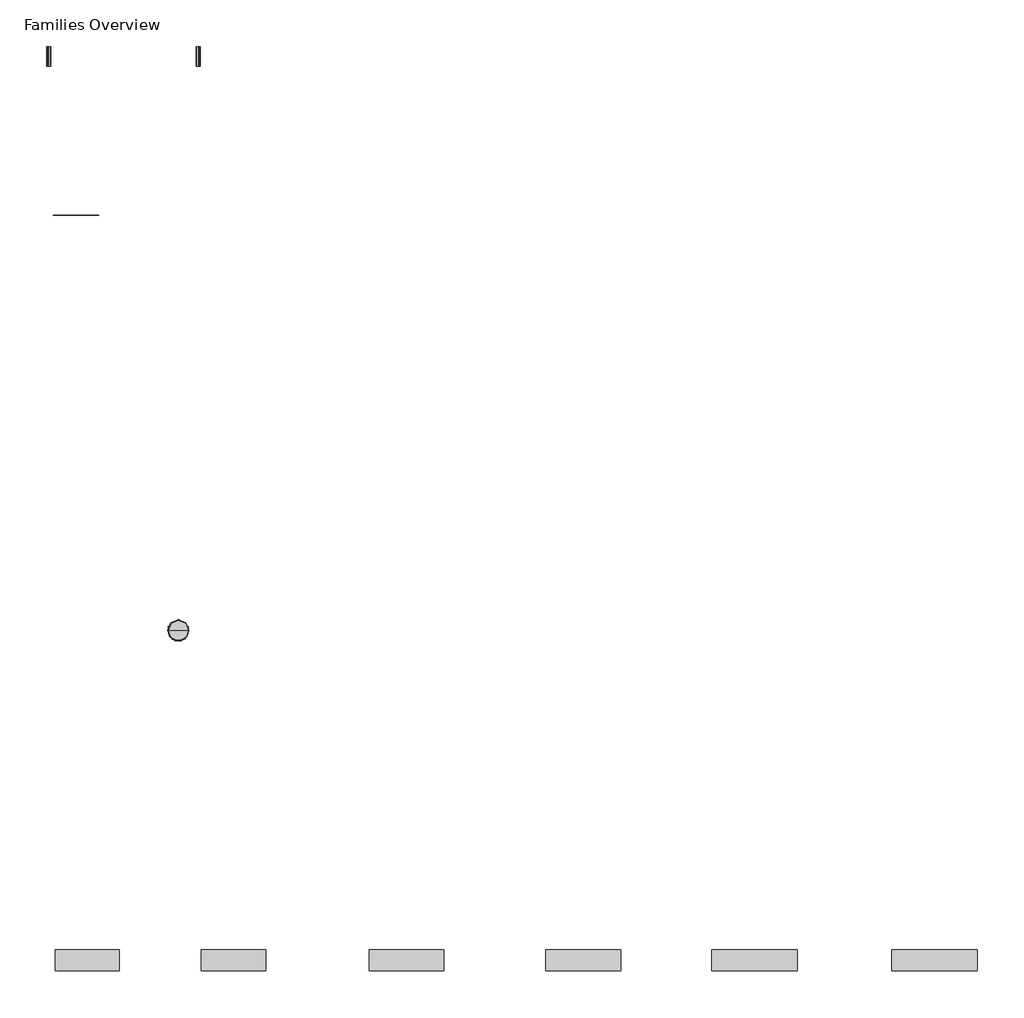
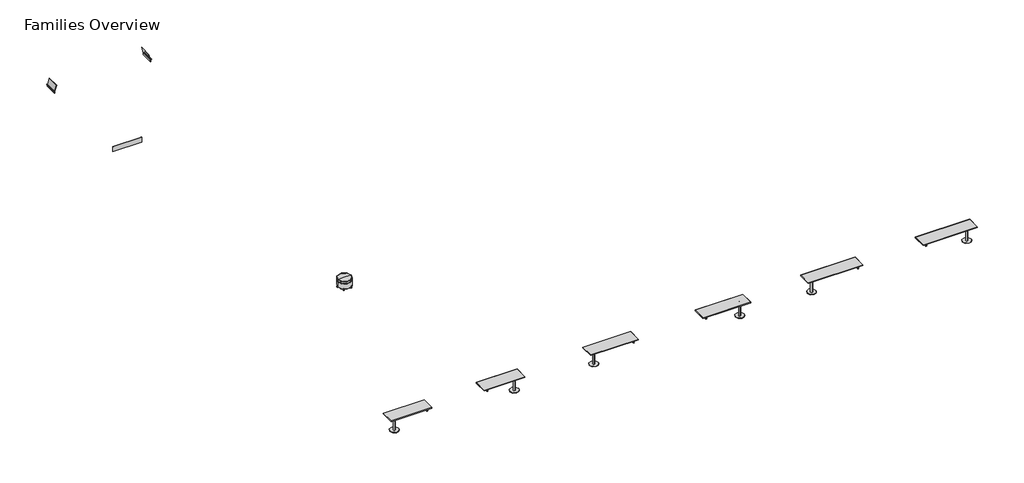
# One storey, incomplete: 10 furniture elements.
"""IFC4 building model written with IfcOpenShell, lengths in millimetres."""

from ifc_helpers import new_model, si_unit, origin, place, context, project, spatial, transform, mapped, element, save
from components import furniture_5c7a1199, furniture_7b93e401, furniture_b3126ded, furniture_3ccd9896, furniture_8df6c61d, furniture_59a98a84, steelcase_coalesse_topo_modesty_screen_lower_51in_x_10in_e8a221f6, steelcase_coalesse_topo_modesty_screen_upper_left_3f92186f, steelcase_coalesse_topo_modesty_screen_upper_right_8f536726, steelcase_coalesse_topo_seating_mobile_lounge_lounge_jr_6746f59b

model = new_model("IFC4")

# Units and contexts
model_context = context("Model", 3, world=origin())
ifc_project = project(units=[si_unit("LENGTHUNIT", "METRE", prefix="MILLI")], contexts=[model_context])

# Site, building, storey
site = spatial("IfcSite", under=ifc_project)
building = spatial("IfcBuilding", under=site)
storey = spatial("IfcBuildingStorey", under=building, Name="Families Overview", Elevation=0.0)

# Furniture
placement = place(None, origin())
furniture_shape = furniture_5c7a1199(model_context)
element("IfcFurniture", 1, ObjectType="Steelcase Coalesse - Topo - Desktop - Freestanding Straight Ancillary : 72W x 24D - Left - Flat Edge", at=placement, inside=storey, context=model_context, shape_type="MappedRepresentation", body=[
    mapped(furniture_shape, transform((29328.4977217, 17704.7262917, 0.0), x_axis=(1.0, 0.0, 0.0), y_axis=(0.0, 1.0, 0.0), z_axis=(0.0, 0.0, 1.0))),
])
furniture_2_shape = furniture_7b93e401(model_context)
element("IfcFurniture", 2, ObjectType="Steelcase Coalesse - Topo - Desktop - Freestanding Straight Ancillary : 72W x 24D - Right - Flat Edge", at=placement, inside=storey, context=model_context, shape_type="MappedRepresentation", body=[
    mapped(furniture_2_shape, transform((33494.0977217, 17704.7262917, 0.0), x_axis=(1.0, 0.0, 0.0), y_axis=(0.0, 1.0, 0.0), z_axis=(0.0, 0.0, 1.0))),
])
furniture_3_shape = furniture_b3126ded(model_context)
element("IfcFurniture", 3, ObjectType="Steelcase Coalesse - Topo - Desktop - Freestanding Straight Ancillary : 84W x 24D - Left - Flat Edge", at=placement, inside=storey, context=model_context, shape_type="MappedRepresentation", body=[
    mapped(furniture_3_shape, transform((38269.2977217, 17704.7262917, 0.0), x_axis=(1.0, 0.0, 0.0), y_axis=(0.0, 1.0, 0.0), z_axis=(0.0, 0.0, 1.0))),
])
furniture_4_shape = furniture_3ccd9896(model_context)
element("IfcFurniture", 4, ObjectType="Steelcase Coalesse - Topo - Desktop - Freestanding Straight Ancillary : 84W x 24D - Right - Flat Edge", at=placement, inside=storey, context=model_context, shape_type="MappedRepresentation", body=[
    mapped(furniture_4_shape, transform((43298.4977217, 17704.7262917, 0.0), x_axis=(1.0, 0.0, 0.0), y_axis=(0.0, 1.0, 0.0), z_axis=(0.0, 0.0, 1.0))),
])
furniture_5_shape = furniture_8df6c61d(model_context)
element("IfcFurniture", 5, ObjectType="Steelcase Coalesse - Topo - Desktop - Freestanding Straight Ancillary : 96W x 24D - Left - Flat Edge", at=placement, inside=storey, context=model_context, shape_type="MappedRepresentation", body=[
    mapped(furniture_5_shape, transform((48022.8977217, 17704.7262917, 0.0), x_axis=(1.0, 0.0, 0.0), y_axis=(0.0, 1.0, 0.0), z_axis=(0.0, 0.0, 1.0))),
])
furniture_6_shape = furniture_59a98a84(model_context)
element("IfcFurniture", 6, ObjectType="Steelcase Coalesse - Topo - Desktop - Freestanding Straight Ancillary : 96W x 24D - Right - Flat Edge", at=placement, inside=storey, context=model_context, shape_type="MappedRepresentation", body=[
    mapped(furniture_6_shape, transform((53153.6977217, 17704.7262917, 0.0), x_axis=(1.0, 0.0, 0.0), y_axis=(0.0, 1.0, 0.0), z_axis=(0.0, 0.0, 1.0))),
])
steelcase_coalesse_topo_modesty_screen_lower_51in_x_10in_shape = steelcase_coalesse_topo_modesty_screen_lower_51in_x_10in_e8a221f6(model_context)
element("IfcFurniture", 7, ObjectType="Steelcase Coalesse - Topo - Modesty Screen - Lower : 51in x 10in", at=placement, inside=storey, context=model_context, shape_type="MappedRepresentation", body=[
    mapped(steelcase_coalesse_topo_modesty_screen_lower_51in_x_10in_shape, transform((29037.9057563, 38837.201004, 0.0), x_axis=(1.0, 0.0, 0.0), y_axis=(0.0, 1.0, 0.0), z_axis=(0.0, 0.0, 1.0))),
])
steelcase_coalesse_topo_modesty_screen_upper_left_shape = steelcase_coalesse_topo_modesty_screen_upper_left_3f92186f(model_context)
element("IfcFurniture", 8, ObjectType="Steelcase Coalesse - Topo - Modesty Screen - Upper : Left", at=placement, inside=storey, context=model_context, shape_type="MappedRepresentation", body=[
    mapped(steelcase_coalesse_topo_modesty_screen_upper_left_shape, transform((29119.2104101, 43414.975167, 0.0), x_axis=(1.0, 0.0, 0.0), y_axis=(0.0, 1.0, 0.0), z_axis=(0.0, 0.0, 1.0))),
])
steelcase_coalesse_topo_modesty_screen_upper_right_shape = steelcase_coalesse_topo_modesty_screen_upper_right_8f536726(model_context)
element("IfcFurniture", 9, ObjectType="Steelcase Coalesse - Topo - Modesty Screen - Upper : Right", at=placement, inside=storey, context=model_context, shape_type="MappedRepresentation", body=[
    mapped(steelcase_coalesse_topo_modesty_screen_upper_right_shape, transform((33437.2104101, 43414.975167, 0.0), x_axis=(1.0, 0.0, 0.0), y_axis=(0.0, 1.0, 0.0), z_axis=(0.0, 0.0, 1.0))),
])
steelcase_coalesse_topo_seating_mobile_lounge_lounge_jr_shape = steelcase_coalesse_topo_seating_mobile_lounge_lounge_jr_6746f59b(model_context)
element("IfcFurniture", 10, ObjectType="Steelcase Coalesse - Topo - Seating - Mobile Lounge : Lounge Jr.", at=placement, inside=storey, context=model_context, shape_type="MappedRepresentation", body=[
    mapped(steelcase_coalesse_topo_seating_mobile_lounge_lounge_jr_shape, transform((32837.4168767, 26793.4344564, 0.0), x_axis=(1.0, 0.0, 0.0), y_axis=(0.0, 1.0, 0.0), z_axis=(0.0, 0.0, 1.0))),
])

save(model, "model.ifc")
